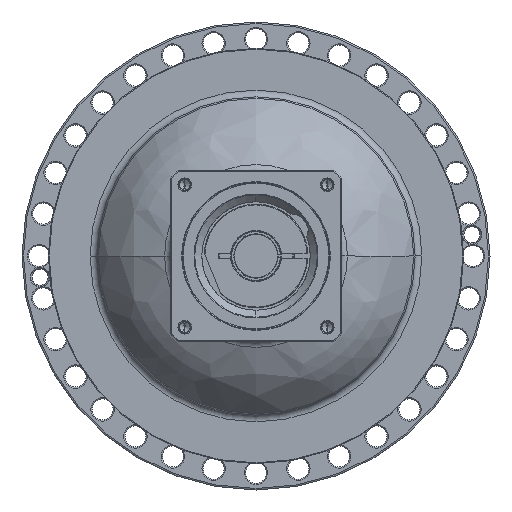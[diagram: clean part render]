
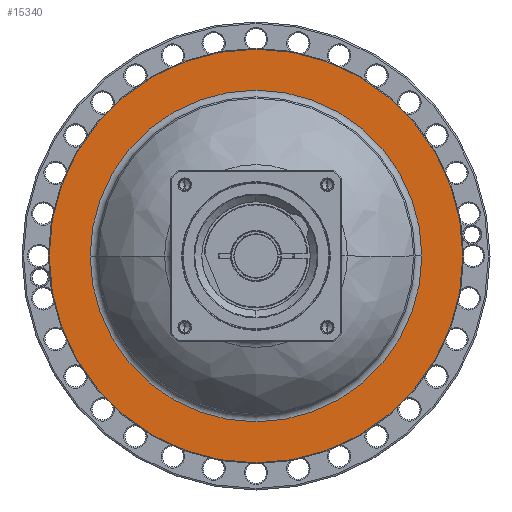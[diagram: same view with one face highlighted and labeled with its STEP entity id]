
A CAD part, left-side view. The second image highlights one B-rep face of the part: STEP entity #15340.
In plain terms, the highlighted planar face has unit normal (-1, 0, 0) as drawn and (1, 0, 0) by its records, which use the part's own axes.
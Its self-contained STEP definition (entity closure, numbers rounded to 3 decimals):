
#14843=CARTESIAN_POINT('',(-48.,0.,0.));
#14844=DIRECTION('',(-1.,0.,0.));
#14845=DIRECTION('',(0.,1.,0.));
#14846=AXIS2_PLACEMENT_3D('',#14843,#14844,#14845);
#14858=CARTESIAN_POINT('',(-48.,0.,0.));
#14859=DIRECTION('',(1.,0.,0.));
#14860=DIRECTION('',(0.,1.,0.));
#14861=AXIS2_PLACEMENT_3D('',#14858,#14859,#14860);
#14863=CARTESIAN_POINT('',(-48.,0.,0.));
#14864=DIRECTION('',(-1.,0.,0.));
#14865=DIRECTION('',(0.,-1.,0.));
#14866=AXIS2_PLACEMENT_3D('',#14863,#14864,#14865);
#14868=CARTESIAN_POINT('',(-48.,0.,0.));
#14869=DIRECTION('',(-1.,0.,0.));
#14870=DIRECTION('',(0.,1.,0.));
#14871=AXIS2_PLACEMENT_3D('',#14868,#14869,#14870);
#14993=CARTESIAN_POINT('',(-48.,-133.5,0.));
#14994=CARTESIAN_POINT('',(-48.,133.5,0.));
#14995=VERTEX_POINT('',#14993);
#14996=VERTEX_POINT('',#14994);
#15017=CARTESIAN_POINT('',(-48.,107.,0.));
#15018=CARTESIAN_POINT('',(-48.,-107.,0.));
#15019=VERTEX_POINT('',#15017);
#15020=VERTEX_POINT('',#15018);
#15325=CARTESIAN_POINT('',(-48.,0.,0.));
#15326=DIRECTION('',(1.,0.,0.));
#15327=DIRECTION('',(0.,-1.,0.));
#15328=AXIS2_PLACEMENT_3D('',#15325,#15326,#15327);
#15329=PLANE('',#15328);
#15331=ORIENTED_EDGE('',*,*,#15330,.T.);
#15333=ORIENTED_EDGE('',*,*,#15332,.T.);
#15334=EDGE_LOOP('',(#15331,#15333));
#15335=FACE_OUTER_BOUND('',#15334,.F.);
#15336=ORIENTED_EDGE('',*,*,#15319,.T.);
#15337=ORIENTED_EDGE('',*,*,#15305,.F.);
#15338=EDGE_LOOP('',(#15336,#15337));
#15339=FACE_BOUND('',#15338,.F.);
#15340=ADVANCED_FACE('',(#15335,#15339),#15329,.T.);
#14847=CIRCLE('',#14846,107.);
#14862=CIRCLE('',#14861,107.);
#14867=CIRCLE('',#14866,133.5);
#14872=CIRCLE('',#14871,133.5);
#15305=EDGE_CURVE('',#15019,#15020,#14847,.T.);
#15319=EDGE_CURVE('',#15019,#15020,#14862,.T.);
#15330=EDGE_CURVE('',#14995,#14996,#14867,.T.);
#15332=EDGE_CURVE('',#14996,#14995,#14872,.T.);
